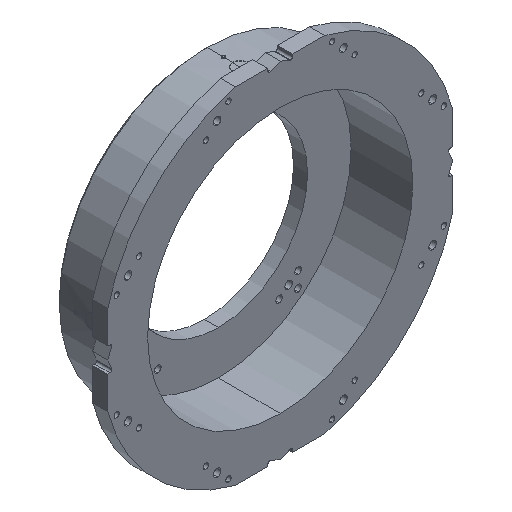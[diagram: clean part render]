
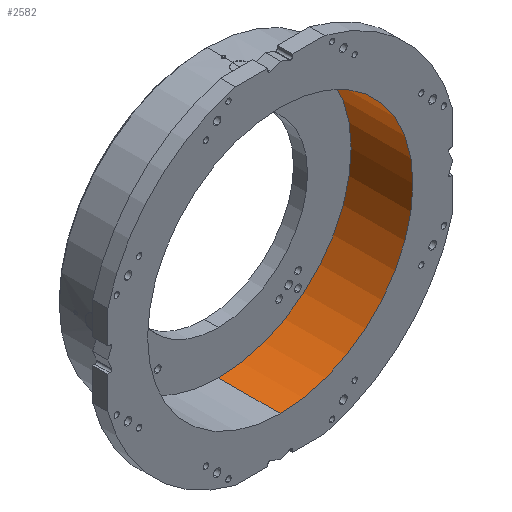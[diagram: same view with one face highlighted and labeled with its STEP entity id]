
A CAD part, isometric view. The second image highlights one B-rep face of the part: STEP entity #2582.
In plain terms, the highlighted cylindrical face has radius 350 mm (diameter 700 mm), a partial arc.
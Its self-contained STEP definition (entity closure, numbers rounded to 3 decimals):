
#412 = CARTESIAN_POINT ( 'NONE',  ( 0., 0., -350. ) ) ;
#516 = DIRECTION ( 'NONE',  ( 0., 1., 0. ) ) ;
#530 = VECTOR ( 'NONE', #1173, 1000. ) ;
#714 = CARTESIAN_POINT ( 'NONE',  ( 0., 163., 350. ) ) ;
#744 = CARTESIAN_POINT ( 'NONE',  ( 0., 163., -350. ) ) ;
#1042 = DIRECTION ( 'NONE',  ( 0., 1., 0. ) ) ;
#1173 = DIRECTION ( 'NONE',  ( 0., 1., 0. ) ) ;
#1362 = CARTESIAN_POINT ( 'NONE',  ( 0., 0., 350. ) ) ;
#1765 = DIRECTION ( 'NONE',  ( 0., 1., 0. ) ) ;
#2038 = EDGE_CURVE ( 'NONE', #3351, #5653, #3722, .T. ) ;
#2071 = DIRECTION ( 'NONE',  ( 0., 0., 1. ) ) ;
#2231 = AXIS2_PLACEMENT_3D ( 'NONE', #5325, #516, #5418 ) ;
#2526 = ORIENTED_EDGE ( 'NONE', *, *, #3969, .F. ) ;
#2582 = ADVANCED_FACE ( 'NONE', ( #5767 ), #7711, .F. ) ;
#2634 = CIRCLE ( 'NONE', #2913, 350. ) ;
#2742 = AXIS2_PLACEMENT_3D ( 'NONE', #6523, #1042, #4397 ) ;
#2747 = CARTESIAN_POINT ( 'NONE',  ( 0., 0., 0. ) ) ;
#2913 = AXIS2_PLACEMENT_3D ( 'NONE', #2747, #5444, #2071 ) ;
#3045 = LINE ( 'NONE', #8397, #530 ) ;
#3351 = VERTEX_POINT ( 'NONE', #5769 ) ;
#3722 = LINE ( 'NONE', #412, #6684 ) ;
#3969 = EDGE_CURVE ( 'NONE', #6900, #3351, #2634, .T. ) ;
#3978 = EDGE_CURVE ( 'NONE', #6900, #5312, #3045, .T. ) ;
#4397 = DIRECTION ( 'NONE',  ( 0., 0., 1. ) ) ;
#4524 = ORIENTED_EDGE ( 'NONE', *, *, #3978, .T. ) ;
#5312 = VERTEX_POINT ( 'NONE', #714 ) ;
#5325 = CARTESIAN_POINT ( 'NONE',  ( 0., 163., 0. ) ) ;
#5418 = DIRECTION ( 'NONE',  ( 0., 0., 1. ) ) ;
#5444 = DIRECTION ( 'NONE',  ( 0., 1., 0. ) ) ;
#5653 = VERTEX_POINT ( 'NONE', #744 ) ;
#5767 = FACE_OUTER_BOUND ( 'NONE', #8098, .T. ) ;
#5769 = CARTESIAN_POINT ( 'NONE',  ( 0., 0., -350. ) ) ;
#6190 = EDGE_CURVE ( 'NONE', #5312, #5653, #8036, .T. ) ;
#6523 = CARTESIAN_POINT ( 'NONE',  ( 0., 0., 0. ) ) ;
#6577 = ORIENTED_EDGE ( 'NONE', *, *, #2038, .F. ) ;
#6684 = VECTOR ( 'NONE', #1765, 1000. ) ;
#6900 = VERTEX_POINT ( 'NONE', #1362 ) ;
#7711 = CYLINDRICAL_SURFACE ( 'NONE', #2742, 350. ) ;
#8036 = CIRCLE ( 'NONE', #2231, 350. ) ;
#8098 = EDGE_LOOP ( 'NONE', ( #6577, #2526, #4524, #8545 ) ) ;
#8397 = CARTESIAN_POINT ( 'NONE',  ( 0., 0., 350. ) ) ;
#8545 = ORIENTED_EDGE ( 'NONE', *, *, #6190, .T. ) ;
